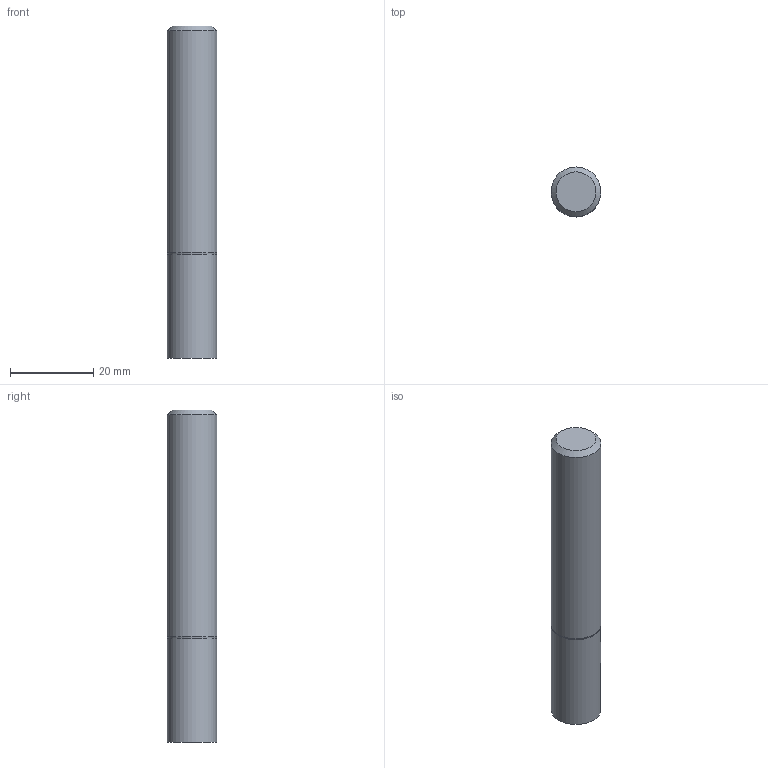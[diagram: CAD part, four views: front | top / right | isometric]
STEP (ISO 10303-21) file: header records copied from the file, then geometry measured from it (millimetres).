
FILE_DESCRIPTION((''),'2;1');
FILE_NAME('C:\Users\nsx150\AppData\Local\Temp\Mastercam 2021\98T1Q6BTT1\TEMP.step','2021-10-21T14:50:33',(''),(''),'STEP Write','Mastercam 2021 ... CNC Software, Inc.','');
FILE_SCHEMA(('AUTOMOTIVE_DESIGN'));
Length unit declared in the file: millimetre
Products named in the file (1): None
Bounding box: 12 x 12 x 80 mm (x, y, z)
Volume: 8975.2 mm3; surface area: 3426.6 mm2
Topology: 2 solids, 2 shells, 8 faces, 10 edges, 6 vertices
Faces by surface type: plane 4, cylinder 2, cone 2
Full cylindrical faces by diameter (mm): 11.9 x1, 12 x1
Entity records: 190 total; most frequent: DIRECTION 32, CARTESIAN_POINT 22, AXIS2_PLACEMENT_3D 16, ORIENTED_EDGE 12, EDGE_LOOP 12, STYLED_ITEM 11, ADVANCED_FACE 8, VERTEX_POINT 6
